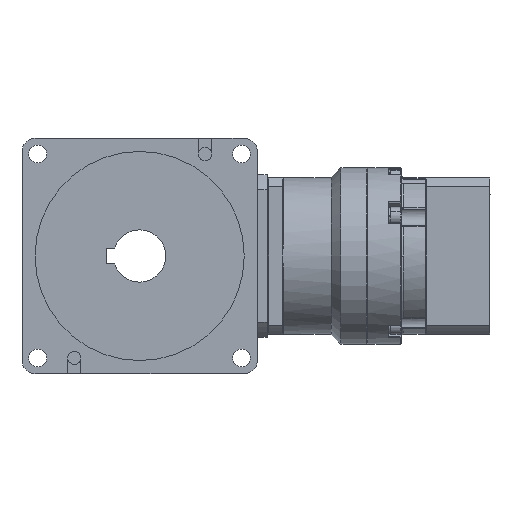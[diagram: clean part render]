
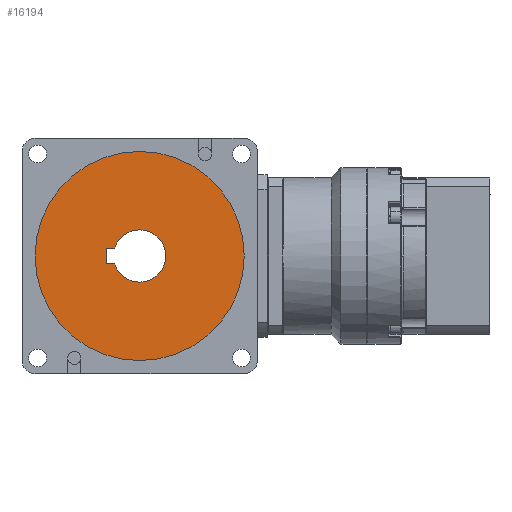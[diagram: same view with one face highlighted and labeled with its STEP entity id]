
A CAD part, left-side view. The second image highlights one B-rep face of the part: STEP entity #16194.
In plain terms, the highlighted planar face has unit normal (-1, 0, 0).
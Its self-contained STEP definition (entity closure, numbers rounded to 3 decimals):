
#1449 = CARTESIAN_POINT ( 'NONE',  ( -31.5, 0., 0. ) ) ;
#1465 = CIRCLE ( 'NONE', #11330, 10. ) ;
#1483 = VERTEX_POINT ( 'NONE', #5516 ) ;
#2501 = CARTESIAN_POINT ( 'NONE',  ( -31.5, 0., -10. ) ) ;
#2520 = CARTESIAN_POINT ( 'NONE',  ( -31.5, 0., 0. ) ) ;
#2981 = DIRECTION ( 'NONE',  ( 0., 1., 0. ) ) ;
#3329 = EDGE_CURVE ( 'NONE', #9985, #34900, #28567, .T. ) ;
#4171 = EDGE_CURVE ( 'NONE', #1483, #25731, #24290, .T. ) ;
#4770 = EDGE_CURVE ( 'NONE', #38451, #23971, #42594, .T. ) ;
#5413 = DIRECTION ( 'NONE',  ( -1., 0., 0. ) ) ;
#5516 = CARTESIAN_POINT ( 'NONE',  ( -31.5, 0., 40. ) ) ;
#7612 = EDGE_LOOP ( 'NONE', ( #29889, #42031 ) ) ;
#8349 = CARTESIAN_POINT ( 'NONE',  ( -31.5, 0., 0. ) ) ;
#9598 = CARTESIAN_POINT ( 'NONE',  ( -31.5, 0., -3. ) ) ;
#9734 = EDGE_CURVE ( 'NONE', #25731, #1483, #40265, .T. ) ;
#9985 = VERTEX_POINT ( 'NONE', #36537 ) ;
#10061 = ORIENTED_EDGE ( 'NONE', *, *, #15336, .T. ) ;
#10410 = VERTEX_POINT ( 'NONE', #36488 ) ;
#10722 = EDGE_CURVE ( 'NONE', #10410, #9985, #1465, .T. ) ;
#10951 = DIRECTION ( 'NONE',  ( -1., 0., 0. ) ) ;
#11330 = AXIS2_PLACEMENT_3D ( 'NONE', #1449, #10951, #14948 ) ;
#11834 = DIRECTION ( 'NONE',  ( 0., 0., 1. ) ) ;
#12915 = DIRECTION ( 'NONE',  ( 0., 0., 1. ) ) ;
#14948 = DIRECTION ( 'NONE',  ( 0., 0., 1. ) ) ;
#15336 = EDGE_CURVE ( 'NONE', #38451, #39775, #27121, .T. ) ;
#15446 = FACE_OUTER_BOUND ( 'NONE', #7612, .T. ) ;
#15680 = CARTESIAN_POINT ( 'NONE',  ( -31.5, 12.8, 0. ) ) ;
#16194 = ADVANCED_FACE ( 'NONE', ( #35419, #15446 ), #20341, .T. ) ;
#17234 = AXIS2_PLACEMENT_3D ( 'NONE', #8349, #38727, #32301 ) ;
#17722 = DIRECTION ( 'NONE',  ( 0., 0., 1. ) ) ;
#19560 = DIRECTION ( 'NONE',  ( -1., 0., 0. ) ) ;
#20341 = PLANE ( 'NONE',  #17234 ) ;
#20564 = VECTOR ( 'NONE', #38957, 1000. ) ;
#21210 = DIRECTION ( 'NONE',  ( -1., 0., 0. ) ) ;
#21816 = EDGE_LOOP ( 'NONE', ( #26861, #10061, #34785, #30584, #24624, #23796 ) ) ;
#22148 = AXIS2_PLACEMENT_3D ( 'NONE', #2520, #19560, #12915 ) ;
#23796 = ORIENTED_EDGE ( 'NONE', *, *, #38188, .F. ) ;
#23813 = CARTESIAN_POINT ( 'NONE',  ( -31.5, 12.8, -3. ) ) ;
#23971 = VERTEX_POINT ( 'NONE', #2501 ) ;
#24284 = EDGE_CURVE ( 'NONE', #39775, #34900, #42262, .T. ) ;
#24290 = CIRCLE ( 'NONE', #22148, 40. ) ;
#24469 = CARTESIAN_POINT ( 'NONE',  ( -31.5, 0., -40. ) ) ;
#24624 = ORIENTED_EDGE ( 'NONE', *, *, #10722, .F. ) ;
#25731 = VERTEX_POINT ( 'NONE', #24469 ) ;
#26861 = ORIENTED_EDGE ( 'NONE', *, *, #4770, .F. ) ;
#27089 = CARTESIAN_POINT ( 'NONE',  ( -31.5, 12.8, 3. ) ) ;
#27121 = LINE ( 'NONE', #9598, #30010 ) ;
#28366 = CARTESIAN_POINT ( 'NONE',  ( -31.5, 0., 0. ) ) ;
#28567 = LINE ( 'NONE', #42490, #38884 ) ;
#28774 = DIRECTION ( 'NONE',  ( 0., 1., 0. ) ) ;
#29889 = ORIENTED_EDGE ( 'NONE', *, *, #4171, .T. ) ;
#30010 = VECTOR ( 'NONE', #2981, 1000. ) ;
#30584 = ORIENTED_EDGE ( 'NONE', *, *, #3329, .F. ) ;
#31065 = AXIS2_PLACEMENT_3D ( 'NONE', #28366, #37462, #17722 ) ;
#31809 = CARTESIAN_POINT ( 'NONE',  ( -31.5, 0., 0. ) ) ;
#32017 = AXIS2_PLACEMENT_3D ( 'NONE', #41807, #21210, #33691 ) ;
#32301 = DIRECTION ( 'NONE',  ( 0., 0., 1. ) ) ;
#33691 = DIRECTION ( 'NONE',  ( 0., 0., 1. ) ) ;
#33773 = CARTESIAN_POINT ( 'NONE',  ( -31.5, 9.539, -3. ) ) ;
#34785 = ORIENTED_EDGE ( 'NONE', *, *, #24284, .T. ) ;
#34900 = VERTEX_POINT ( 'NONE', #27089 ) ;
#35304 = AXIS2_PLACEMENT_3D ( 'NONE', #31809, #5413, #11834 ) ;
#35419 = FACE_BOUND ( 'NONE', #21816, .T. ) ;
#36488 = CARTESIAN_POINT ( 'NONE',  ( -31.5, 0., 10. ) ) ;
#36537 = CARTESIAN_POINT ( 'NONE',  ( -31.5, 9.539, 3. ) ) ;
#37462 = DIRECTION ( 'NONE',  ( -1., 0., 0. ) ) ;
#38188 = EDGE_CURVE ( 'NONE', #23971, #10410, #43792, .T. ) ;
#38451 = VERTEX_POINT ( 'NONE', #33773 ) ;
#38727 = DIRECTION ( 'NONE',  ( -1., 0., 0. ) ) ;
#38884 = VECTOR ( 'NONE', #28774, 1000. ) ;
#38957 = DIRECTION ( 'NONE',  ( 0., 0., 1. ) ) ;
#39775 = VERTEX_POINT ( 'NONE', #23813 ) ;
#40265 = CIRCLE ( 'NONE', #31065, 40. ) ;
#41807 = CARTESIAN_POINT ( 'NONE',  ( -31.5, 0., 0. ) ) ;
#42031 = ORIENTED_EDGE ( 'NONE', *, *, #9734, .T. ) ;
#42262 = LINE ( 'NONE', #15680, #20564 ) ;
#42490 = CARTESIAN_POINT ( 'NONE',  ( -31.5, 0., 3. ) ) ;
#42594 = CIRCLE ( 'NONE', #32017, 10. ) ;
#43792 = CIRCLE ( 'NONE', #35304, 10. ) ;
